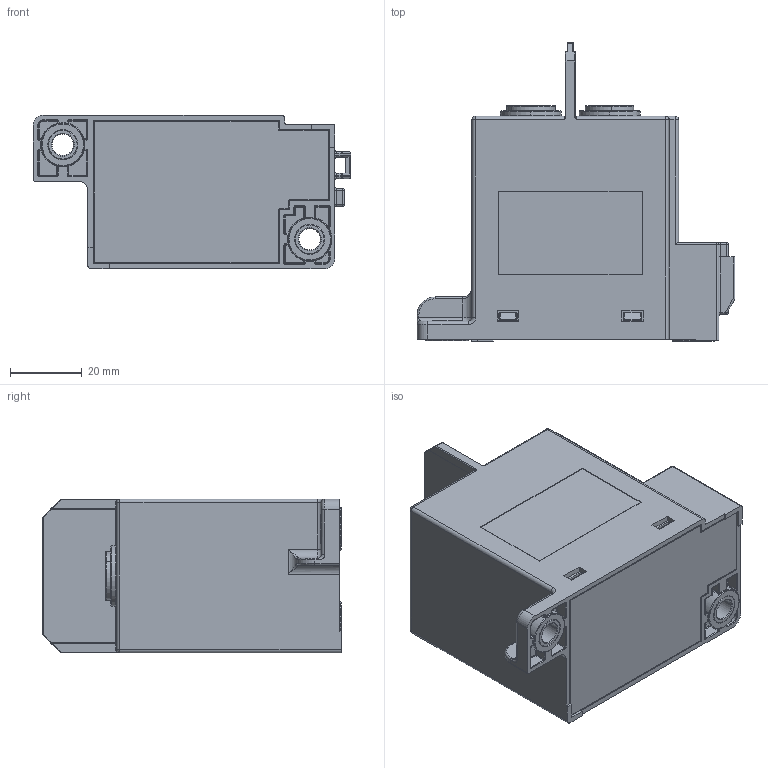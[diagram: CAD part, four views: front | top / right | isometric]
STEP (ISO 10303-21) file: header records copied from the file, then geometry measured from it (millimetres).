
FILE_DESCRIPTION (( 'STEP AP203' ), '1' );
FILE_NAME ('LNEV250HB軞蚾芞.STEP', '2025-02-12T02:32:57', ( '' ), ( '' ), 'SwSTEP 2.0', 'SolidWorks 2018', '' );
FILE_SCHEMA (( 'CONFIG_CONTROL_DESIGN' ));
Length unit declared in the file: millimetre
Products named in the file (1): LNEV250HB軞蚾芞
Bounding box: 88.8 x 83.3 x 43 mm (x, y, z)
Volume: 36130.7 mm3; surface area: 48612.7 mm2
Topology: 12 solids, 12 shells, 2011 faces, 4815 edges, 2728 vertices
Faces by surface type: cylinder 811, plane 655, torus 261, sphere 162, bspline 94, cone 28
Entity records: 58860 total; most frequent: CARTESIAN_POINT 13163, DIRECTION 10014, ORIENTED_EDGE 9340, EDGE_CURVE 4670, AXIS2_PLACEMENT_3D 3757, VERTEX_POINT 2724, VECTOR 2500, LINE 2500
